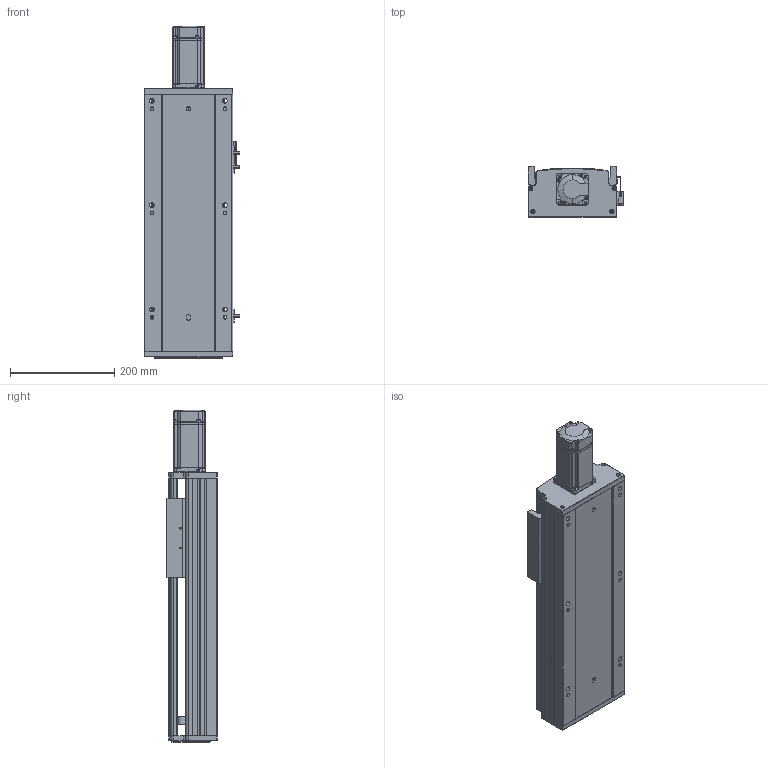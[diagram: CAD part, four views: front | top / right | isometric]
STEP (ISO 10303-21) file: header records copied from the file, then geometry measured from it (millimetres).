
FILE_DESCRIPTION (( 'STEP AP203' ), '1' );
FILE_NAME ('RY170Q-L2020-400-MK.SLDASM_0250.step', '2021-05-31T02:02:06', ( '盈信电脑' ), ( '东莞市道滘镇水果街19号' ), 'SwSTEP 2.0', 'SolidWorks 2016', '' );
FILE_SCHEMA (( 'CONFIG_CONTROL_DESIGN' ));
Length unit declared in the file: millimetre
Products named in the file (12): RY170外置感应片(200共用）; RY170Q-L2020-400-MK.SLDASM_0250; 15; 侂狟400W侜督萇儂; RY170ヶ醱裔啣; 滅袉蝶18-15; RY170Q-400倰第裔啣-MK_0250; RY170綴裔啣; 覜茼ん672; RY170Q臏賑輸20佪裝蹟譫(FK15); 滅袉蝶18-10; RY170Q-400倰第菁釱-MK_0250
Assembly tree (14 placements, depth 3):
  RY170Q-L2020-400-MK.SLDASM_0250
    RY170Q-400倰第菁釱-MK_0250
    RY170Q-400倰第裔啣-MK_0250
    RY170Q臏賑輸20佪裝蹟譫(FK15)
    侂狟400W侜督萇儂
      15
    RY170綴裔啣
    覜茼ん672  x3
    RY170外置感应片(200共用）
    RY170ヶ醱裔啣
    滅袉蝶18-15  x2
    滅袉蝶18-10
Bounding box: 183.7 x 97 x 636.5 mm (x, y, z)
Volume: 3087292.7 mm3; surface area: 935792.8 mm2
Topology: 13 solids, 13 shells, 2062 faces, 5795 edges, 3761 vertices
Faces by surface type: plane 1185, cylinder 707, cone 141, bspline 29
Entity records: 63658 total; most frequent: CARTESIAN_POINT 13523, ORIENTED_EDGE 10410, DIRECTION 9948, EDGE_CURVE 5205, VECTOR 3476, LINE 3476, VERTEX_POINT 3429, AXIS2_PLACEMENT_3D 3236
